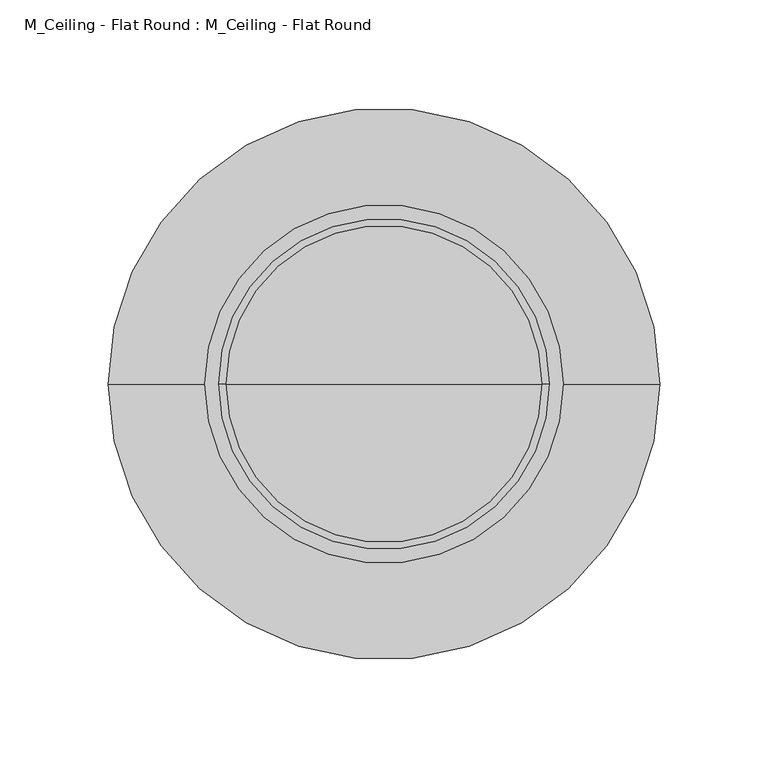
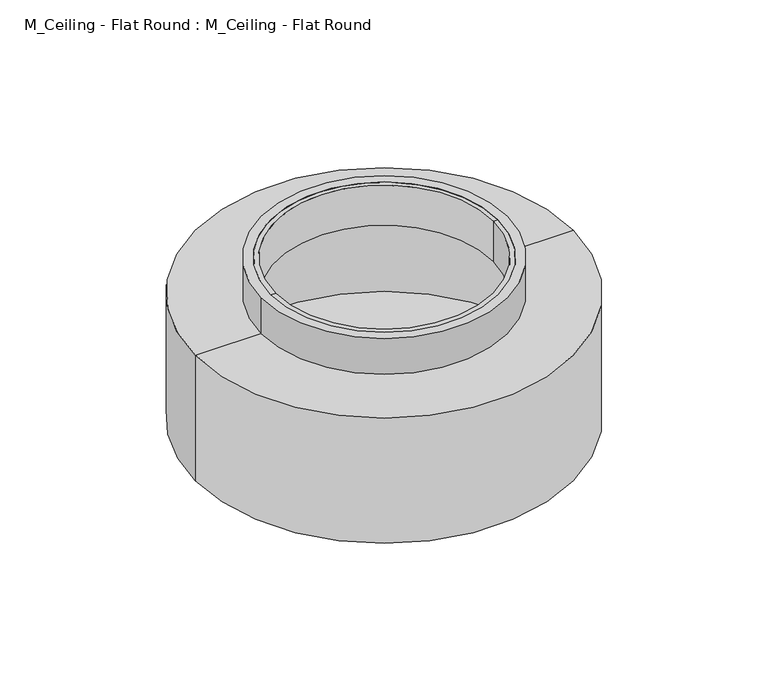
"""IFC4 building model written with IfcOpenShell, lengths in millimetres: light fixture geometry, M_Ceiling - Flat Round : M_Ceiling - Flat Round."""

from ifc_helpers import new_model, si_unit, point, frame, origin, origin_2d, place, context, project, spatial, polyline, circle_curve, trimmed, segment, composite_curve, outline, extrude, source, transform, mapped, element, save
from ifc_brep_helpers import plane_surface, cylinder_surface, revolved_surface, advanced_brep


def m_ceiling_flat_round_m_ceiling_flat_round_0a96185f(model_context):
    return source(origin(), model_context, "Body", "SolidModel", [
        extrude(outline(composite_curve([segment(trimmed(circle_curve(origin_2d(), 82.55), [point((-82.55, 0.0))], [point((82.55, 0.0))], False, "CARTESIAN"), True, "CONTINUOUS"), segment(trimmed(circle_curve(origin_2d(), 82.55), [point((82.55, 0.0))], [point((-82.55, 0.0))], False, "CARTESIAN"), True, "CONTINUOUS")], self_intersect=False), holes=[composite_curve([segment(trimmed(circle_curve(origin_2d(), 76.2), [point((-76.2, 0.0))], [point((76.2, 0.0))], True, "CARTESIAN"), True, "CONTINUOUS"), segment(trimmed(circle_curve(origin_2d(), 76.2), [point((76.2, 0.0))], [point((-76.2, 0.0))], True, "CARTESIAN"), True, "CONTINUOUS")], self_intersect=False)]), frame((0.0, 0.0, 2413.0), z_axis=(0.0, 0.0, 1.0), x_axis=(1.0, 0.0, 0.0)), (0.0, 0.0, 1.0), 25.4),
        advanced_brep(
        [(127.0, 0.0, 2413.0), (-127.0, 0.0, 2413.0), (-76.2, 0.0, 2413.0), (76.2, 0.0, 2413.0), (127.0, 0.0, 2324.1), (-127.0, 0.0, 2324.1), (0.0, 0.0, 2324.1), (123.825, 0.0, 2327.275), (-123.825, 0.0, 2327.275), (0.0, 0.0, 2327.275), (123.825, 0.0, 2409.825), (-123.825, 0.0, 2409.825), (73.025, 0.0, 2409.825), (-73.025, 0.0, 2409.825), (73.025, 0.0, 2438.4), (-73.025, 0.0, 2438.4), (76.2, 0.0, 2438.4), (-76.2, 0.0, 2438.4)],
        [
            (0, 1, circle_curve(frame((0.0, 0.0, 2413.0), z_axis=(0.0, 0.0, 1.0), x_axis=(-1.0, 0.0, 0.0)), 127.0)),
            (1, 2),
            (2, 3, circle_curve(frame((0.0, 0.0, 2413.0), z_axis=(0.0, 0.0, -1.0), x_axis=(-1.0, 0.0, 0.0)), 76.2)),
            (3, 0),
            (1, 0, circle_curve(frame((0.0, 0.0, 2413.0), z_axis=(0.0, 0.0, 1.0), x_axis=(-1.0, 0.0, 0.0)), 127.0)),
            (3, 2, circle_curve(frame((0.0, 0.0, 2413.0), z_axis=(0.0, 0.0, -1.0), x_axis=(-1.0, 0.0, 0.0)), 76.2)),
            (4, 5, circle_curve(frame((0.0, 0.0, 2324.1), z_axis=(0.0, 0.0, 1.0), x_axis=(-1.0, 0.0, 0.0)), 127.0)),
            (5, 1),
            (0, 4),
            (5, 4, circle_curve(frame((0.0, 0.0, 2324.1), z_axis=(0.0, 0.0, 1.0), x_axis=(-1.0, 0.0, 0.0)), 127.0)),
            (6, 5),
            (4, 6),
            (7, 8, circle_curve(frame((0.0, 0.0, 2327.275), z_axis=(0.0, 0.0, 1.0), x_axis=(-1.0, 0.0, 0.0)), 123.825)),
            (8, 9),
            (9, 7),
            (8, 7, circle_curve(frame((0.0, 0.0, 2327.275), z_axis=(0.0, 0.0, 1.0), x_axis=(-1.0, 0.0, 0.0)), 123.825)),
            (10, 11, circle_curve(frame((0.0, 0.0, 2409.825), z_axis=(0.0, 0.0, 1.0), x_axis=(-1.0, 0.0, 0.0)), 123.825)),
            (11, 8),
            (7, 10),
            (11, 10, circle_curve(frame((0.0, 0.0, 2409.825), z_axis=(0.0, 0.0, 1.0), x_axis=(-1.0, 0.0, 0.0)), 123.825)),
            (12, 13, circle_curve(frame((0.0, 0.0, 2409.825), z_axis=(0.0, 0.0, 1.0), x_axis=(-1.0, 0.0, 0.0)), 73.025)),
            (13, 11),
            (10, 12),
            (13, 12, circle_curve(frame((0.0, 0.0, 2409.825), z_axis=(0.0, 0.0, 1.0), x_axis=(-1.0, 0.0, 0.0)), 73.025)),
            (14, 15, circle_curve(frame((0.0, 0.0, 2438.4), z_axis=(0.0, 0.0, 1.0), x_axis=(-1.0, 0.0, 0.0)), 73.025)),
            (15, 13),
            (12, 14),
            (15, 14, circle_curve(frame((0.0, 0.0, 2438.4), z_axis=(0.0, 0.0, 1.0), x_axis=(-1.0, 0.0, 0.0)), 73.025)),
            (16, 17, circle_curve(frame((0.0, 0.0, 2438.4), z_axis=(0.0, 0.0, 1.0), x_axis=(-1.0, 0.0, 0.0)), 76.2)),
            (17, 15),
            (14, 16),
            (17, 16, circle_curve(frame((0.0, 0.0, 2438.4), z_axis=(0.0, 0.0, 1.0), x_axis=(-1.0, 0.0, 0.0)), 76.2)),
            (2, 17),
            (16, 3),
        ],
        [
            plane_surface(frame((0.0, 0.0, 2413.0), z_axis=(0.0, 0.0, 1.0), x_axis=(-1.0, 0.0, 0.0))),
            cylinder_surface(frame((0.0, 0.0, 2463.8), z_axis=(0.0, 0.0, -1.0), x_axis=(-1.0, 0.0, 0.0)), 127.0),
            plane_surface(frame((0.0, 0.0, 2324.1), z_axis=(0.0, 0.0, -1.0), x_axis=(-1.0, 0.0, 0.0))),
            plane_surface(frame((0.0, 0.0, 2327.275), z_axis=(0.0, 0.0, 1.0), x_axis=(-1.0, 0.0, 0.0))),
            revolved_surface(polyline([(-123.825, 0.0, 2327.275), (-123.825, 0.0, 2409.825)]), (0.0, 0.0, 2463.8), (0.0, 0.0, -1.0)),
            plane_surface(frame((0.0, 0.0, 2409.825), z_axis=(0.0, 0.0, -1.0), x_axis=(-1.0, 0.0, 0.0))),
            revolved_surface(polyline([(-73.025, 0.0, 2409.825), (-73.025, 0.0, 2438.4)]), (0.0, 0.0, 2463.8), (0.0, 0.0, -1.0)),
            plane_surface(frame((0.0, 0.0, 2438.4), z_axis=(0.0, 0.0, 1.0), x_axis=(-1.0, 0.0, 0.0))),
            cylinder_surface(frame((0.0, 0.0, 2463.8), z_axis=(0.0, 0.0, -1.0), x_axis=(-1.0, 0.0, 0.0)), 76.2),
        ],
        [
            (0, [[1, 2, 3, 4]]),
            (0, [[5, -4, 6, -2]]),
            (1, [[7, 8, -1, 9]]),
            (1, [[10, -9, -5, -8]]),
            (2, [[11, -7, 12]]),
            (2, [[-12, -10, -11]]),
            (3, [[13, 14, 15]]),
            (3, [[16, -15, -14]]),
            (4, [[17, 18, -13, 19]]),
            (4, [[20, -19, -16, -18]]),
            (5, [[21, 22, -17, 23]]),
            (5, [[24, -23, -20, -22]]),
            (6, [[25, 26, -21, 27]]),
            (6, [[28, -27, -24, -26]]),
            (7, [[29, 30, -25, 31]]),
            (7, [[32, -31, -28, -30]]),
            (8, [[-3, 33, -29, 34]]),
            (8, [[-6, -34, -32, -33]]),
        ],
    ),
    ])


if __name__ == "__main__":
    model = new_model("IFC4")
    model_context = context("Model", 3, world=origin())
    ifc_project = project(units=[si_unit("LENGTHUNIT", "METRE", prefix="MILLI")], contexts=[model_context])
    site = spatial("IfcSite", under=ifc_project)
    building = spatial("IfcBuilding", under=site)
    placement = place(None, origin())
    m_ceiling_flat_round_m_ceiling_flat_round_shape = m_ceiling_flat_round_m_ceiling_flat_round_0a96185f(model_context)
    element("IfcLightFixture", 1, ObjectType="M_Ceiling - Flat Round : M_Ceiling - Flat Round", at=placement, inside=building, context=model_context, shape_type="MappedRepresentation", body=[
        mapped(m_ceiling_flat_round_m_ceiling_flat_round_shape, transform((0.0, 0.0, 0.0), x_axis=(1.0, 0.0, 0.0), y_axis=(0.0, 1.0, 0.0), z_axis=(0.0, 0.0, 1.0))),
    ])
    save(model, "model.ifc")
